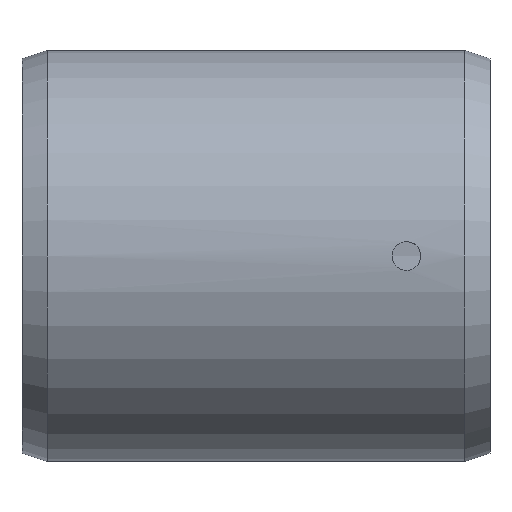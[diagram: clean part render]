
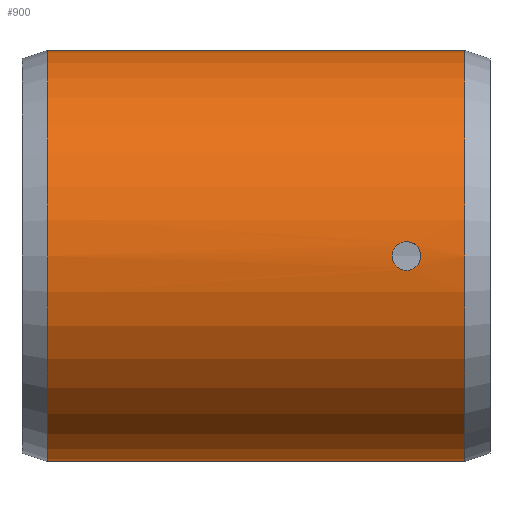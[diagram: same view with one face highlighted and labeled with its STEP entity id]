
A CAD part, front view. The second image highlights one B-rep face of the part: STEP entity #900.
In plain terms, the highlighted cylindrical face has radius 24.606 mm (diameter 49.213 mm), a partial arc.
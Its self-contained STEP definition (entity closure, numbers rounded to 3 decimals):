
#8 = CARTESIAN_POINT ( 'NONE',  ( 16.273, -24.606, -0.226 ) ) ;
#14 = VECTOR ( 'NONE', #389, 1000. ) ;
#16 = CARTESIAN_POINT ( 'NONE',  ( 16.273, -24.606, 0.112 ) ) ;
#31 = LINE ( 'NONE', #344, #14 ) ;
#34 = CARTESIAN_POINT ( 'NONE',  ( 16.284, -24.605, 0.227 ) ) ;
#35 = CARTESIAN_POINT ( 'NONE',  ( 28., 0., 0. ) ) ;
#38 = CARTESIAN_POINT ( 'NONE',  ( 16.328, -24.602, 0.448 ) ) ;
#63 = CARTESIAN_POINT ( 'NONE',  ( 16.361, -24.6, 0.556 ) ) ;
#66 = CARTESIAN_POINT ( 'NONE',  ( 16.447, -24.595, 0.765 ) ) ;
#71 = ORIENTED_EDGE ( 'NONE', *, *, #205, .T. ) ;
#76 = CARTESIAN_POINT ( 'NONE',  ( 18.225, -24.546, 1.727 ) ) ;
#79 = CARTESIAN_POINT ( 'NONE',  ( 16.501, -24.591, 0.866 ) ) ;
#84 = CARTESIAN_POINT ( 'NONE',  ( 16.626, -24.584, 1.053 ) ) ;
#85 = VERTEX_POINT ( 'NONE', #751 ) ;
#95 = CARTESIAN_POINT ( 'NONE',  ( 18.453, -24.549, 1.682 ) ) ;
#100 = CARTESIAN_POINT ( 'NONE',  ( 18.868, -24.56, 1.51 ) ) ;
#104 = CARTESIAN_POINT ( 'NONE',  ( 19.061, -24.568, 1.381 ) ) ;
#105 = CARTESIAN_POINT ( 'NONE',  ( 19.3, -24.58, 1.143 ) ) ;
#112 = EDGE_CURVE ( 'NONE', #85, #733, #306, .T. ) ;
#117 = VECTOR ( 'NONE', #863, 1000. ) ;
#120 = ORIENTED_EDGE ( 'NONE', *, *, #494, .F. ) ;
#136 = CARTESIAN_POINT ( 'NONE',  ( 19.373, -24.584, 1.054 ) ) ;
#147 = CARTESIAN_POINT ( 'NONE',  ( -25., 0., 24.606 ) ) ;
#169 = CARTESIAN_POINT ( 'NONE',  ( 19.499, -24.591, 0.866 ) ) ;
#170 = AXIS2_PLACEMENT_3D ( 'NONE', #35, #555, #858 ) ;
#175 = CARTESIAN_POINT ( 'NONE',  ( -25., 0., -24.606 ) ) ;
#179 = CARTESIAN_POINT ( 'NONE',  ( 25., 0., 0. ) ) ;
#182 = CARTESIAN_POINT ( 'NONE',  ( 19.552, -24.595, 0.767 ) ) ;
#185 = CARTESIAN_POINT ( 'NONE',  ( 19.638, -24.6, 0.558 ) ) ;
#193 = CARTESIAN_POINT ( 'NONE',  ( 19.672, -24.602, 0.448 ) ) ;
#198 = CARTESIAN_POINT ( 'NONE',  ( 19.716, -24.605, 0.228 ) ) ;
#200 = CARTESIAN_POINT ( 'NONE',  ( 19.727, -24.606, 0.115 ) ) ;
#201 = CARTESIAN_POINT ( 'NONE',  ( 19.727, -24.606, -0.113 ) ) ;
#204 = CARTESIAN_POINT ( 'NONE',  ( 19.716, -24.605, -0.225 ) ) ;
#205 = EDGE_CURVE ( 'NONE', #733, #85, #600, .T. ) ;
#206 = CARTESIAN_POINT ( 'NONE',  ( 19.672, -24.602, -0.446 ) ) ;
#211 = CIRCLE ( 'NONE', #954, 24.606 ) ;
#217 = CARTESIAN_POINT ( 'NONE',  ( 19.639, -24.6, -0.555 ) ) ;
#230 = DIRECTION ( 'NONE',  ( 0., 0., -1. ) ) ;
#234 = CARTESIAN_POINT ( 'NONE',  ( 19.553, -24.595, -0.765 ) ) ;
#238 = CARTESIAN_POINT ( 'NONE',  ( 19.5, -24.591, -0.864 ) ) ;
#239 = DIRECTION ( 'NONE',  ( 1., 0., 0. ) ) ;
#240 = VERTEX_POINT ( 'NONE', #564 ) ;
#241 = CARTESIAN_POINT ( 'NONE',  ( 19.375, -24.584, -1.052 ) ) ;
#242 = CARTESIAN_POINT ( 'NONE',  ( -25., 0., 0. ) ) ;
#255 = CARTESIAN_POINT ( 'NONE',  ( 19.302, -24.58, -1.141 ) ) ;
#257 = CARTESIAN_POINT ( 'NONE',  ( 19.063, -24.568, -1.38 ) ) ;
#261 = CARTESIAN_POINT ( 'NONE',  ( 18.87, -24.56, -1.509 ) ) ;
#264 = EDGE_CURVE ( 'NONE', #240, #690, #899, .T. ) ;
#265 = CARTESIAN_POINT ( 'NONE',  ( 18.455, -24.549, -1.681 ) ) ;
#266 = CARTESIAN_POINT ( 'NONE',  ( 18.228, -24.546, -1.727 ) ) ;
#273 = CARTESIAN_POINT ( 'NONE',  ( 18., -24.546, -1.727 ) ) ;
#286 = CARTESIAN_POINT ( 'NONE',  ( 17.234, -24.557, 1.552 ) ) ;
#301 = ORIENTED_EDGE ( 'NONE', *, *, #112, .T. ) ;
#306 = B_SPLINE_CURVE_WITH_KNOTS ( 'NONE', 3,
 ( #307, #76, #95, #100, #104, #105, #136, #169, #182, #185, #193, #198, #200, #201, #204, #206, #217, #234, #238, #241, #255, #257, #261, #265, #266, #273 ),
 .UNSPECIFIED., .F., .F.,
 ( 4, 2, 2, 2, 2, 2, 2, 2, 2, 2, 2, 2, 4 ),
 ( 0.005, 0.006, 0.007, 0.007, 0.007, 0.008, 0.008, 0.008, 0.009, 0.009, 0.009, 0.01, 0.011 ),
 .UNSPECIFIED. ) ;
#307 = CARTESIAN_POINT ( 'NONE',  ( 18., -24.546, 1.727 ) ) ;
#331 = ORIENTED_EDGE ( 'NONE', *, *, #886, .T. ) ;
#341 = CARTESIAN_POINT ( 'NONE',  ( 16.491, -24.592, -0.869 ) ) ;
#344 = CARTESIAN_POINT ( 'NONE',  ( 28., 0., -24.606 ) ) ;
#354 = CARTESIAN_POINT ( 'NONE',  ( 16.318, -24.603, -0.453 ) ) ;
#383 = VERTEX_POINT ( 'NONE', #952 ) ;
#389 = DIRECTION ( 'NONE',  ( -1., 0., 0. ) ) ;
#395 = CARTESIAN_POINT ( 'NONE',  ( 17.133, -24.561, 1.498 ) ) ;
#461 = CARTESIAN_POINT ( 'NONE',  ( 16.946, -24.568, 1.373 ) ) ;
#462 = DIRECTION ( 'NONE',  ( 0., 0., -1. ) ) ;
#463 = CIRCLE ( 'NONE', #532, 24.606 ) ;
#470 = CARTESIAN_POINT ( 'NONE',  ( 16.859, -24.572, 1.302 ) ) ;
#492 = ORIENTED_EDGE ( 'NONE', *, *, #264, .T. ) ;
#494 = EDGE_CURVE ( 'NONE', #383, #804, #31, .T. ) ;
#496 = CARTESIAN_POINT ( 'NONE',  ( 17.444, -24.552, 1.639 ) ) ;
#498 = CARTESIAN_POINT ( 'NONE',  ( 17.551, -24.549, 1.672 ) ) ;
#512 = CARTESIAN_POINT ( 'NONE',  ( 17.773, -24.546, 1.716 ) ) ;
#515 = CARTESIAN_POINT ( 'NONE',  ( 17.887, -24.546, 1.727 ) ) ;
#529 = CARTESIAN_POINT ( 'NONE',  ( 18., -24.546, 1.727 ) ) ;
#532 = AXIS2_PLACEMENT_3D ( 'NONE', #242, #239, #230 ) ;
#555 = DIRECTION ( 'NONE',  ( -1., 0., 0. ) ) ;
#564 = CARTESIAN_POINT ( 'NONE',  ( 25., 0., 24.606 ) ) ;
#565 = CARTESIAN_POINT ( 'NONE',  ( 17.886, -24.546, -1.727 ) ) ;
#577 = CARTESIAN_POINT ( 'NONE',  ( 18., -24.546, -1.727 ) ) ;
#588 = CARTESIAN_POINT ( 'NONE',  ( 17.135, -24.561, -1.499 ) ) ;
#600 = B_SPLINE_CURVE_WITH_KNOTS ( 'NONE', 3,
 ( #577, #565, #883, #901, #921, #618, #588, #632, #652, #680, #341, #354, #8, #16, #34, #38, #63, #66, #79, #84, #811, #470, #461, #395, #286, #496, #498, #512, #515, #529 ),
 .UNSPECIFIED., .F., .F.,
 ( 4, 2, 2, 2, 2, 2, 2, 2, 2, 2, 2, 2, 2, 2, 4 ),
 ( 0., 0., 0.001, 0.001, 0.001, 0.002, 0.003, 0.003, 0.003, 0.004, 0.004, 0.004, 0.005, 0.005, 0.005 ),
 .UNSPECIFIED. ) ;
#618 = CARTESIAN_POINT ( 'NONE',  ( 17.234, -24.557, -1.552 ) ) ;
#632 = CARTESIAN_POINT ( 'NONE',  ( 16.947, -24.568, -1.374 ) ) ;
#652 = CARTESIAN_POINT ( 'NONE',  ( 16.858, -24.572, -1.301 ) ) ;
#680 = CARTESIAN_POINT ( 'NONE',  ( 16.619, -24.584, -1.062 ) ) ;
#688 = EDGE_CURVE ( 'NONE', #690, #804, #463, .T. ) ;
#690 = VERTEX_POINT ( 'NONE', #147 ) ;
#733 = VERTEX_POINT ( 'NONE', #752 ) ;
#751 = CARTESIAN_POINT ( 'NONE',  ( 18., -24.546, 1.727 ) ) ;
#752 = CARTESIAN_POINT ( 'NONE',  ( 18., -24.546, -1.727 ) ) ;
#781 = EDGE_LOOP ( 'NONE', ( #71, #301 ) ) ;
#804 = VERTEX_POINT ( 'NONE', #175 ) ;
#811 = CARTESIAN_POINT ( 'NONE',  ( 16.698, -24.58, 1.14 ) ) ;
#858 = DIRECTION ( 'NONE',  ( 0., 0., 1. ) ) ;
#863 = DIRECTION ( 'NONE',  ( -1., 0., 0. ) ) ;
#872 = CARTESIAN_POINT ( 'NONE',  ( 28., 0., 24.606 ) ) ;
#883 = CARTESIAN_POINT ( 'NONE',  ( 17.774, -24.546, -1.716 ) ) ;
#886 = EDGE_CURVE ( 'NONE', #383, #240, #211, .T. ) ;
#887 = CYLINDRICAL_SURFACE ( 'NONE', #170, 24.606 ) ;
#889 = FACE_BOUND ( 'NONE', #781, .T. ) ;
#899 = LINE ( 'NONE', #872, #117 ) ;
#900 = ADVANCED_FACE ( 'NONE', ( #904, #889 ), #887, .T. ) ;
#901 = CARTESIAN_POINT ( 'NONE',  ( 17.553, -24.549, -1.672 ) ) ;
#904 = FACE_OUTER_BOUND ( 'NONE', #962, .T. ) ;
#905 = ORIENTED_EDGE ( 'NONE', *, *, #688, .T. ) ;
#921 = CARTESIAN_POINT ( 'NONE',  ( 17.443, -24.552, -1.639 ) ) ;
#932 = DIRECTION ( 'NONE',  ( -1., 0., 0. ) ) ;
#952 = CARTESIAN_POINT ( 'NONE',  ( 25., 0., -24.606 ) ) ;
#954 = AXIS2_PLACEMENT_3D ( 'NONE', #179, #932, #462 ) ;
#962 = EDGE_LOOP ( 'NONE', ( #120, #331, #492, #905 ) ) ;
